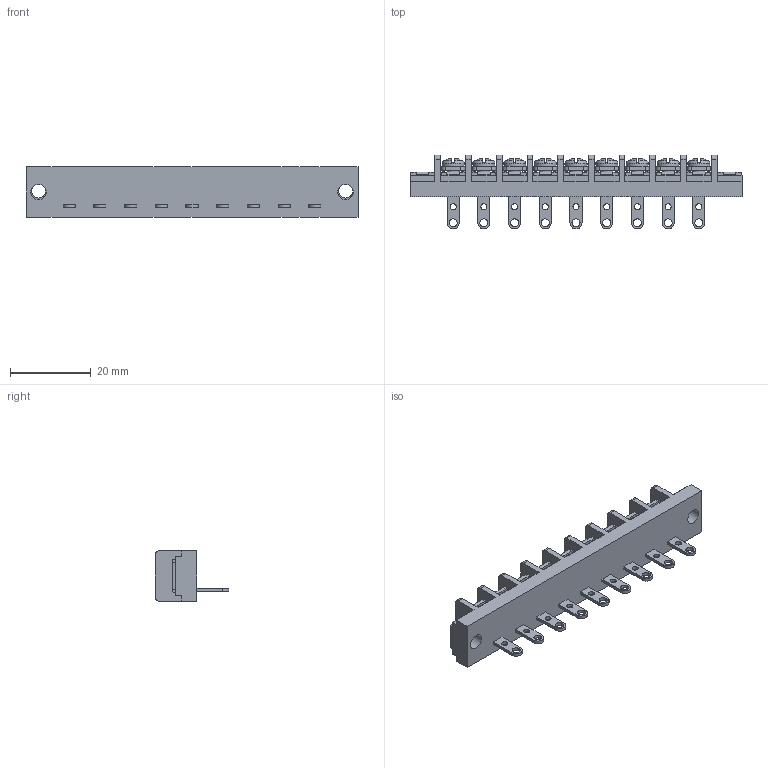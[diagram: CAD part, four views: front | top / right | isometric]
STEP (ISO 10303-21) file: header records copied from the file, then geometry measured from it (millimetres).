
FILE_DESCRIPTION(/* description */ ('Alibre Inc.'),/* implementation_level */ '2;1');
FILE_NAME(/* name */ 'export0',/* time_stamp */ '2015-10-26T18:06:33+09:00',/* author */ (''),/* organization */ (''),/* preprocessor_version */ 'ST-DEVELOPER v14',/* originating_system */ 'Alibre',/* authorisation */ '');
FILE_SCHEMA (('CONFIG_CONTROL_DESIGN'));
Length unit declared in the file: centimetre
Products named in the file (1): ID_1
Bounding box: 82.4 x 18.3 x 12.5 mm (x, y, z)
Volume: 7166.9 mm3; surface area: 6760.7 mm2
Topology: 1 solids, 17 shells, 1336 faces, 3647 edges, 2403 vertices
Faces by surface type: plane 1024, cylinder 136, bspline 104, cone 36, torus 18, sphere 18
Full cylindrical faces by diameter (mm): 1.5 x9, 2 x9, 3 x9, 3.5 x2, 3.8 x2, 5.5 x9
Entity records: 40040 total; most frequent: CARTESIAN_POINT 8818, ORIENTED_EDGE 7098, DIRECTION 4961, EDGE_CURVE 3549, VECTOR 2516, LINE 2516, VERTEX_POINT 2363, AXIS2_PLACEMENT_3D 1683
